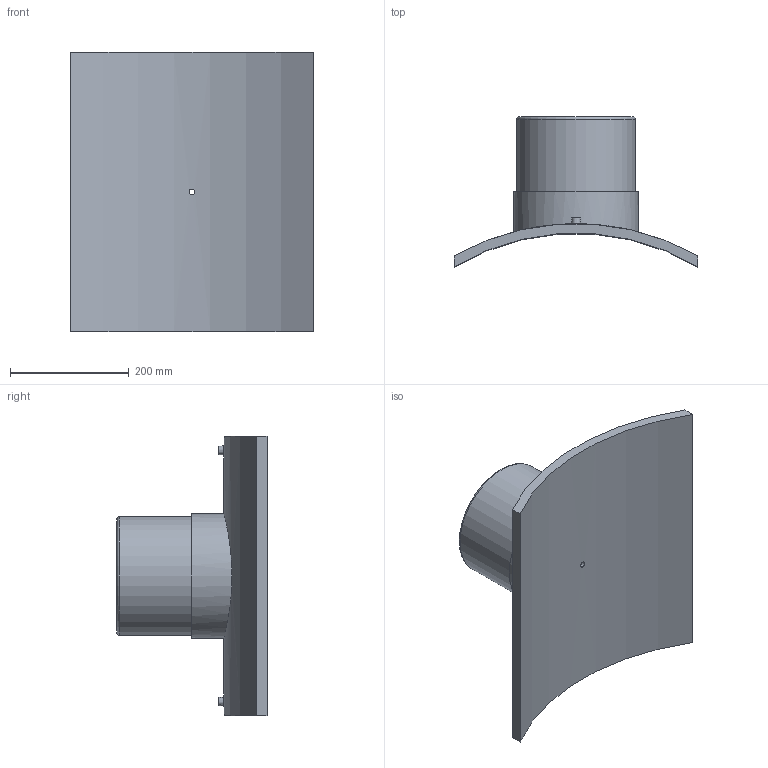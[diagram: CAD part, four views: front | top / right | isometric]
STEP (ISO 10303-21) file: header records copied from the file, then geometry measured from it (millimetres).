
FILE_DESCRIPTION(/* description */ ('PLASSON BRANCH SADDLE 800x200'),/* implementation_level */ '2;1');
FILE_NAME(/* name */ 'C:\Dropbox\KIMPROJECTS-Inventor 2019\99-16-3568-Processing\ElectroFusion Fittings\495803\stp\495803800200T.stp',/* time_stamp */ '2024-04-04T11:57:12+02:00',/* author */ ('KIM'),/* organization */ (''),/* preprocessor_version */ 'ST-DEVELOPER v17.2',/* originating_system */ 'Autodesk Inventor 2019',/* authorisation */ '');
FILE_SCHEMA (('AUTOMOTIVE_DESIGN { 1 0 10303 214 3 1 1 }'));
Length unit declared in the file: millimetre
Products named in the file (1): 495803800200T
Bounding box: 410 x 252.53 x 470 mm (x, y, z)
Volume: 5524844.1 mm3; surface area: 654038 mm2
Topology: 1 solids, 1 shells, 29 faces, 60 edges, 43 vertices
Faces by surface type: plane 13, cylinder 12, torus 2, cone 2
Full cylindrical faces by diameter (mm): 4 x2, 9.6 x1, 10 x2, 16 x1, 160 x1, 200 x1, 210 x1
Entity records: 1086 total; most frequent: CARTESIAN_POINT 400, DIRECTION 139, ORIENTED_EDGE 120, EDGE_CURVE 60, AXIS2_PLACEMENT_3D 60, VERTEX_POINT 43, EDGE_LOOP 41, CIRCLE 30
